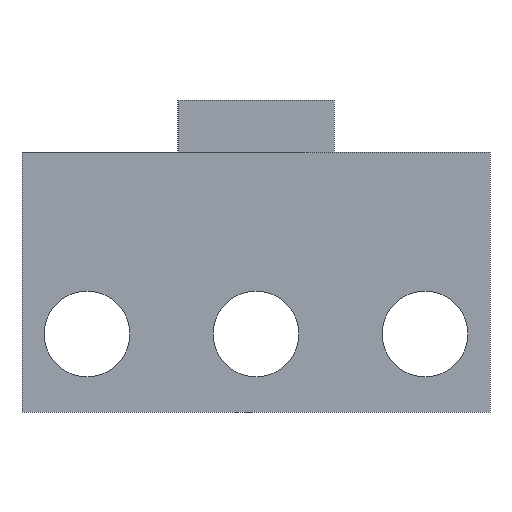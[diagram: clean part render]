
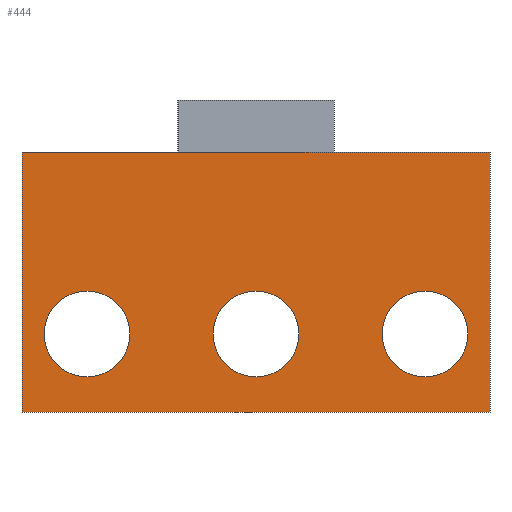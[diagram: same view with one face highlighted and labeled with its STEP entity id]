
A CAD part, front view. The second image highlights one B-rep face of the part: STEP entity #444.
In plain terms, the highlighted planar face has unit normal (0, -1, 0).
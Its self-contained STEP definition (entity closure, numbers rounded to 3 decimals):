
#2 = VECTOR ( 'NONE', #59, 1000. ) ;
#6 = DIRECTION ( 'NONE',  ( 0., -1., 0. ) ) ;
#10 = CARTESIAN_POINT ( 'NONE',  ( -6.5, 5., -5.35 ) ) ;
#12 = PLANE ( 'NONE',  #630 ) ;
#22 = VECTOR ( 'NONE', #450, 1000. ) ;
#28 = DIRECTION ( 'NONE',  ( 0., -1., 0. ) ) ;
#32 = DIRECTION ( 'NONE',  ( -1., 0., 0. ) ) ;
#44 = VERTEX_POINT ( 'NONE', #115 ) ;
#47 = AXIS2_PLACEMENT_3D ( 'NONE', #533, #28, #383 ) ;
#49 = CARTESIAN_POINT ( 'NONE',  ( -3., 5., -10. ) ) ;
#55 = DIRECTION ( 'NONE',  ( -1., 0., 0. ) ) ;
#58 = VERTEX_POINT ( 'NONE', #640 ) ;
#59 = DIRECTION ( 'NONE',  ( 1., 0., 0. ) ) ;
#73 = EDGE_CURVE ( 'NONE', #146, #44, #587, .T. ) ;
#74 = VERTEX_POINT ( 'NONE', #10 ) ;
#82 = CARTESIAN_POINT ( 'NONE',  ( -9., 5., 0. ) ) ;
#83 = VERTEX_POINT ( 'NONE', #205 ) ;
#85 = CARTESIAN_POINT ( 'NONE',  ( 6.5, 5., -5.35 ) ) ;
#96 = EDGE_LOOP ( 'NONE', ( #290, #495, #500, #634, #347, #646 ) ) ;
#98 = ORIENTED_EDGE ( 'NONE', *, *, #514, .F. ) ;
#108 = LINE ( 'NONE', #374, #2 ) ;
#115 = CARTESIAN_POINT ( 'NONE',  ( 0., 5., -5.35 ) ) ;
#129 = VERTEX_POINT ( 'NONE', #647 ) ;
#146 = VERTEX_POINT ( 'NONE', #543 ) ;
#155 = ORIENTED_EDGE ( 'NONE', *, *, #241, .F. ) ;
#160 = DIRECTION ( 'NONE',  ( 0., -1., 0. ) ) ;
#164 = CARTESIAN_POINT ( 'NONE',  ( -6.5, 5., -7. ) ) ;
#165 = CARTESIAN_POINT ( 'NONE',  ( 0., 5., -7. ) ) ;
#167 = CIRCLE ( 'NONE', #493, 1.65 ) ;
#174 = ORIENTED_EDGE ( 'NONE', *, *, #627, .F. ) ;
#185 = CARTESIAN_POINT ( 'NONE',  ( -9., 5., -10. ) ) ;
#187 = EDGE_LOOP ( 'NONE', ( #98, #174 ) ) ;
#192 = CARTESIAN_POINT ( 'NONE',  ( -3., 5., 0. ) ) ;
#193 = VERTEX_POINT ( 'NONE', #429 ) ;
#202 = DIRECTION ( 'NONE',  ( 0., 0., -1. ) ) ;
#204 = DIRECTION ( 'NONE',  ( -1., 0., 0. ) ) ;
#205 = CARTESIAN_POINT ( 'NONE',  ( 3., 5., 0. ) ) ;
#216 = CARTESIAN_POINT ( 'NONE',  ( 9., 5., 0. ) ) ;
#229 = CARTESIAN_POINT ( 'NONE',  ( 9., 5., -10. ) ) ;
#231 = VECTOR ( 'NONE', #204, 1000. ) ;
#238 = EDGE_LOOP ( 'NONE', ( #258, #155 ) ) ;
#241 = EDGE_CURVE ( 'NONE', #58, #74, #294, .T. ) ;
#256 = AXIS2_PLACEMENT_3D ( 'NONE', #309, #301, #202 ) ;
#258 = ORIENTED_EDGE ( 'NONE', *, *, #483, .F. ) ;
#259 = LINE ( 'NONE', #369, #231 ) ;
#265 = CARTESIAN_POINT ( 'NONE',  ( 6.5, 5., -8.65 ) ) ;
#270 = FACE_BOUND ( 'NONE', #238, .T. ) ;
#273 = DIRECTION ( 'NONE',  ( 0., 1., 0. ) ) ;
#286 = AXIS2_PLACEMENT_3D ( 'NONE', #165, #273, #626 ) ;
#290 = ORIENTED_EDGE ( 'NONE', *, *, #454, .F. ) ;
#294 = CIRCLE ( 'NONE', #664, 1.65 ) ;
#295 = LINE ( 'NONE', #560, #512 ) ;
#301 = DIRECTION ( 'NONE',  ( 0., -1., 0. ) ) ;
#302 = ORIENTED_EDGE ( 'NONE', *, *, #676, .T. ) ;
#308 = VERTEX_POINT ( 'NONE', #82 ) ;
#309 = CARTESIAN_POINT ( 'NONE',  ( 6.5, 5., -7. ) ) ;
#338 = CIRCLE ( 'NONE', #47, 1.65 ) ;
#341 = LINE ( 'NONE', #192, #653 ) ;
#347 = ORIENTED_EDGE ( 'NONE', *, *, #506, .F. ) ;
#357 = VERTEX_POINT ( 'NONE', #185 ) ;
#358 = EDGE_CURVE ( 'NONE', #83, #193, #341, .T. ) ;
#360 = LINE ( 'NONE', #49, #558 ) ;
#368 = VERTEX_POINT ( 'NONE', #85 ) ;
#369 = CARTESIAN_POINT ( 'NONE',  ( 9., 5., 0. ) ) ;
#371 = CARTESIAN_POINT ( 'NONE',  ( 0., 5., 0. ) ) ;
#374 = CARTESIAN_POINT ( 'NONE',  ( -9., 5., 0. ) ) ;
#383 = DIRECTION ( 'NONE',  ( 0., 0., -1. ) ) ;
#385 = DIRECTION ( 'NONE',  ( 0., -1., 0. ) ) ;
#397 = EDGE_LOOP ( 'NONE', ( #427, #302 ) ) ;
#403 = DIRECTION ( 'NONE',  ( 0., 1., 0. ) ) ;
#405 = EDGE_CURVE ( 'NONE', #357, #308, #295, .T. ) ;
#427 = ORIENTED_EDGE ( 'NONE', *, *, #73, .T. ) ;
#429 = CARTESIAN_POINT ( 'NONE',  ( -3., 5., 0. ) ) ;
#444 = ADVANCED_FACE ( 'NONE', ( #270, #461, #636, #463 ), #12, .T. ) ;
#446 = VERTEX_POINT ( 'NONE', #216 ) ;
#448 = EDGE_CURVE ( 'NONE', #446, #83, #259, .T. ) ;
#450 = DIRECTION ( 'NONE',  ( 0., 0., -1. ) ) ;
#453 = VERTEX_POINT ( 'NONE', #265 ) ;
#454 = EDGE_CURVE ( 'NONE', #129, #357, #360, .T. ) ;
#455 = DIRECTION ( 'NONE',  ( 0., 0., 1. ) ) ;
#461 = FACE_BOUND ( 'NONE', #187, .T. ) ;
#463 = FACE_BOUND ( 'NONE', #397, .T. ) ;
#472 = DIRECTION ( 'NONE',  ( 0., 0., -1. ) ) ;
#483 = EDGE_CURVE ( 'NONE', #74, #58, #167, .T. ) ;
#493 = AXIS2_PLACEMENT_3D ( 'NONE', #164, #160, #623 ) ;
#495 = ORIENTED_EDGE ( 'NONE', *, *, #652, .F. ) ;
#500 = ORIENTED_EDGE ( 'NONE', *, *, #448, .T. ) ;
#505 = DIRECTION ( 'NONE',  ( 0., 0., 1. ) ) ;
#506 = EDGE_CURVE ( 'NONE', #308, #193, #108, .T. ) ;
#512 = VECTOR ( 'NONE', #505, 1000. ) ;
#514 = EDGE_CURVE ( 'NONE', #368, #453, #618, .T. ) ;
#533 = CARTESIAN_POINT ( 'NONE',  ( 6.5, 5., -7. ) ) ;
#543 = CARTESIAN_POINT ( 'NONE',  ( 0., 5., -8.65 ) ) ;
#554 = CARTESIAN_POINT ( 'NONE',  ( 0., 5., -7. ) ) ;
#558 = VECTOR ( 'NONE', #55, 1000. ) ;
#560 = CARTESIAN_POINT ( 'NONE',  ( -9., 5., -10. ) ) ;
#561 = CIRCLE ( 'NONE', #668, 1.65 ) ;
#587 = CIRCLE ( 'NONE', #286, 1.65 ) ;
#596 = DIRECTION ( 'NONE',  ( 0., 0., -1. ) ) ;
#618 = CIRCLE ( 'NONE', #256, 1.65 ) ;
#623 = DIRECTION ( 'NONE',  ( 0., 0., -1. ) ) ;
#626 = DIRECTION ( 'NONE',  ( 0., 0., 1. ) ) ;
#627 = EDGE_CURVE ( 'NONE', #453, #368, #338, .T. ) ;
#630 = AXIS2_PLACEMENT_3D ( 'NONE', #371, #6, #472 ) ;
#634 = ORIENTED_EDGE ( 'NONE', *, *, #358, .T. ) ;
#636 = FACE_OUTER_BOUND ( 'NONE', #96, .T. ) ;
#640 = CARTESIAN_POINT ( 'NONE',  ( -6.5, 5., -8.65 ) ) ;
#646 = ORIENTED_EDGE ( 'NONE', *, *, #405, .F. ) ;
#647 = CARTESIAN_POINT ( 'NONE',  ( 9., 5., -10. ) ) ;
#650 = CARTESIAN_POINT ( 'NONE',  ( -6.5, 5., -7. ) ) ;
#651 = LINE ( 'NONE', #229, #22 ) ;
#652 = EDGE_CURVE ( 'NONE', #446, #129, #651, .T. ) ;
#653 = VECTOR ( 'NONE', #32, 1000. ) ;
#664 = AXIS2_PLACEMENT_3D ( 'NONE', #650, #385, #596 ) ;
#668 = AXIS2_PLACEMENT_3D ( 'NONE', #554, #403, #455 ) ;
#676 = EDGE_CURVE ( 'NONE', #44, #146, #561, .T. ) ;
